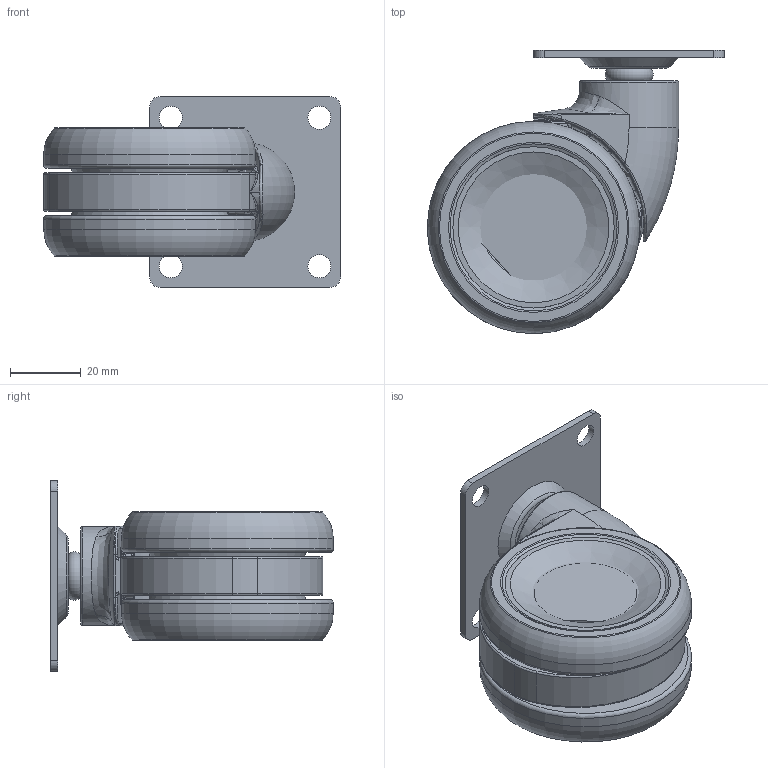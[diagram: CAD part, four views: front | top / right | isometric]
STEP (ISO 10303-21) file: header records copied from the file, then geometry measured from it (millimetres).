
FILE_DESCRIPTION (( 'STEP AP203' ), '1' );
FILE_NAME ('K09U28(プレート).STEP', '2025-04-11T02:08:40', ( '' ), ( '' ), 'SwSTEP 2.0', 'SolidWorks 2025', '' );
FILE_SCHEMA (( 'CONFIG_CONTROL_DESIGN' ));
Length unit declared in the file: millimetre
Products named in the file (5): 28カバー_2; 本体; TPU車輪; プレート縦軸; K09U28(プレート)
Assembly tree (5 placements, depth 2):
  K09U28(プレート)
    本体
    プレート縦軸
    28カバー_2
    TPU車輪  x2
Bounding box: 84 x 80 x 54 mm (x, y, z)
Volume: 86292.8 mm3; surface area: 64998.9 mm2
Topology: 9 solids, 10 shells, 720 faces, 1953 edges, 1172 vertices
Faces by surface type: plane 277, cylinder 158, torus 99, bspline 91, cone 59, sphere 36
Full cylindrical faces by diameter (mm): 2.3 x45, 4.8 x1, 6.5 x4, 7.7 x1, 9 x2, 9.4 x2, 10 x1, 15.6 x1, 16 x2, 16.2 x1, 17 x1, 28 x1, 34 x2, 34.95 x1, 35 x1, 36 x4, 36.4 x4, 38.35 x3, 44.15 x3, 46 x2, 46.95 x1, 47 x1, 54.897 x4
Entity records: 23942 total; most frequent: CARTESIAN_POINT 9949, ORIENTED_EDGE 2730, DIRECTION 2695, EDGE_CURVE 1365, AXIS2_PLACEMENT_3D 1190, VERTEX_POINT 898, EDGE_LOOP 887, FACE_OUTER_BOUND 717
